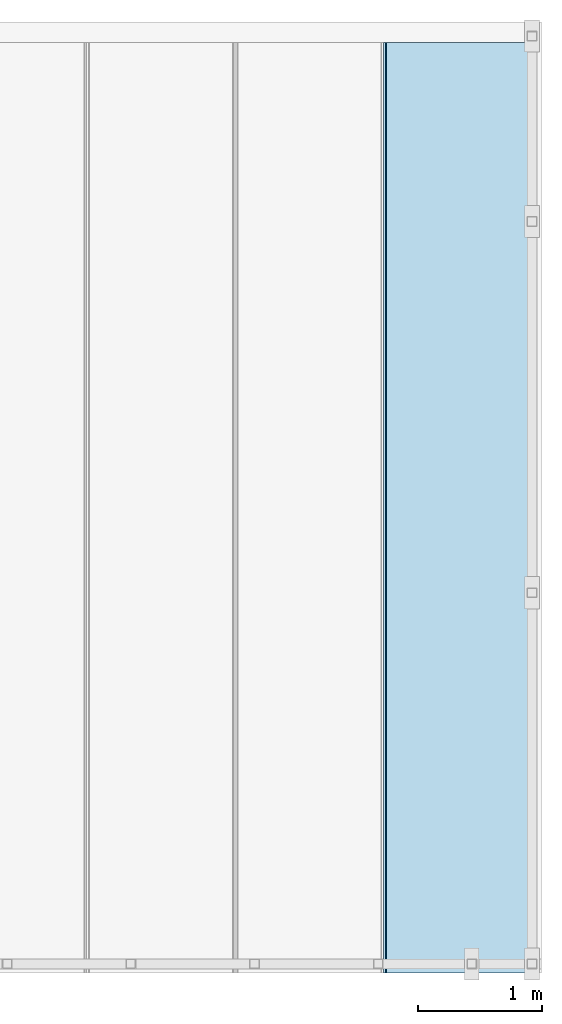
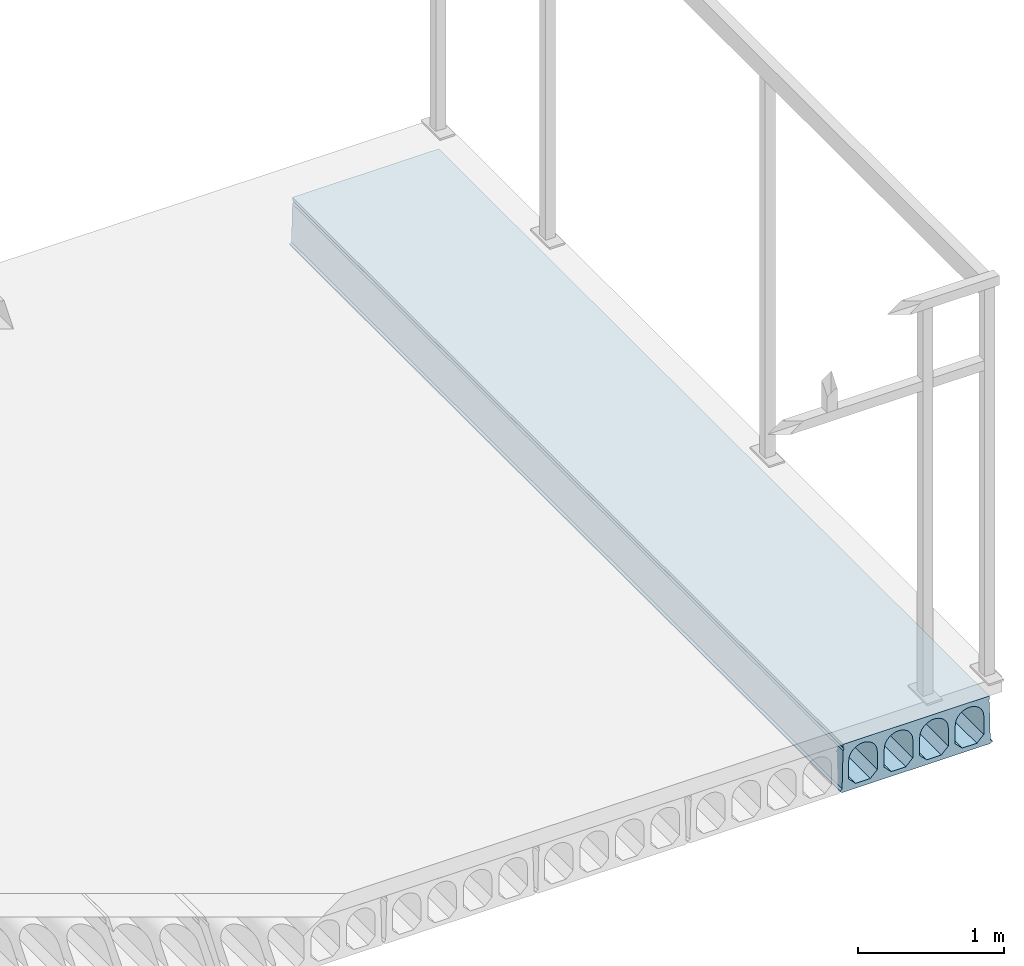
# One storey, part 20 of 20: 1 slab.
"""IFC2X3 building model written with IfcOpenShell, lengths in millimetres."""

import ifcopenshell
import ifcopenshell.guid

model = None  # the IFC model being written
_history = None  # IfcOwnerHistory: only IFC2X3 demands one
_inside = {}  # id of a spatial element -> (the spatial element, [elements in it])
_under = {}  # id of a project, library or spatial element -> (it, [spatial elements below it])
_declared = {}  # id of a project -> (the project, [libraries it declares])
_typed = {}  # id of a type object -> (the type object, [elements of that type])
_made_of = {}  # id of a material, layer set ... -> (it, [elements and type objects made of it])


def new_model(schema):
    """Start an empty IFC model of exactly this schema.

    Asked for "IFC4X3", IfcOpenShell would pick the latest addendum, in which some entities
    have other attributes; the version numbers below select the first issue.
    IFC2X3 requires an IfcOwnerHistory on every rooted entity: one is made here for all.
    """
    global model, _history
    if schema == "IFC4X3":
        model = ifcopenshell.file(schema_version=(4, 3, 0, 0))
    else:
        model = ifcopenshell.file(schema=schema)
    _inside.clear()
    _under.clear()
    _declared.clear()
    _typed.clear()
    _made_of.clear()
    _history = None
    if model.schema == "IFC2X3":
        org = make("IfcOrganization", Name="unknown")
        user = make(
            "IfcPersonAndOrganization",
            ThePerson=make("IfcPerson", FamilyName="unknown"),
            TheOrganization=org,
        )
        app = make(
            "IfcApplication",
            ApplicationDeveloper=org,
            Version="unknown",
            ApplicationFullName="unknown",
            ApplicationIdentifier="unknown",
        )
        _history = make(
            "IfcOwnerHistory",
            OwningUser=user,
            OwningApplication=app,
            ChangeAction="ADDED",
            CreationDate=0,
        )
    return model


def make(cls, **values):
    """One entity of the class cls with the attributes given. An attribute that is None is left unset."""
    return model.create_entity(
        cls, **{name: value for name, value in values.items() if value is not None}
    )


def entity(cls, *values):
    """Any entity or typed value of the class cls, its attributes in the order of the schema. None: left unset."""
    e = model.create_entity(cls)
    for i, value in enumerate(values):
        if value is not None:
            e[i] = value
    return e


def rooted(cls, **values):
    """An entity with a GlobalId (a new one), such as an element, a storey or a relation."""
    return make(cls, GlobalId=ifcopenshell.guid.new(), OwnerHistory=_history, **values)


def si_unit(unit_type, name, prefix=None):
    """IfcSIUnit, for example si_unit("LENGTHUNIT", "METRE", prefix="MILLI")."""
    return make("IfcSIUnit", UnitType=unit_type, Prefix=prefix, Name=name)


def converted_unit(unit_type, name, factor, base, dimensions=None, offset=None):
    """IfcConversionBasedUnit, such as the inch: factor (a typed value) times the base unit."""
    return make(
        "IfcConversionBasedUnit"
        if offset is None
        else "IfcConversionBasedUnitWithOffset",
        ConversionOffset=offset,
        Dimensions=None
        if dimensions is None
        else entity("IfcDimensionalExponents", *dimensions),
        UnitType=unit_type,
        Name=name,
        ConversionFactor=make(
            "IfcMeasureWithUnit", ValueComponent=factor, UnitComponent=base
        ),
    )


def derived_unit(unit_type, elements):
    """IfcDerivedUnit: a product of units, each with its exponent."""
    return make(
        "IfcDerivedUnit",
        Elements=[
            make("IfcDerivedUnitElement", Unit=unit, Exponent=power)
            for unit, power in elements
        ],
        UnitType=unit_type,
    )


def assignment(units):
    """IfcUnitAssignment: the units of a project."""
    return None if units is None else make("IfcUnitAssignment", Units=units)


def point(xyz):
    """IfcCartesianPoint."""
    return None if xyz is None else make("IfcCartesianPoint", Coordinates=xyz)


def direction(xyz):
    """IfcDirection."""
    return None if xyz is None else make("IfcDirection", DirectionRatios=xyz)


def frame(location, z_axis=None, x_axis=None):
    """IfcAxis2Placement3D, a coordinate frame: its origin and axes. An axis left out is left unset."""
    return make(
        "IfcAxis2Placement3D",
        Location=point(location),
        Axis=direction(z_axis),
        RefDirection=direction(x_axis),
    )


def origin_with_axes():
    """The frame at (0, 0, 0) with the z axis (0, 0, 1) and the x axis (1, 0, 0) written out."""
    return frame((0.0, 0.0, 0.0), z_axis=(0.0, 0.0, 1.0), x_axis=(1.0, 0.0, 0.0))


def place(relative_to, where):
    """IfcLocalPlacement: puts the frame where relative to a parent placement (None: the world)."""
    return make(
        "IfcLocalPlacement", PlacementRelTo=relative_to, RelativePlacement=where
    )


def context(
    kind, dimensions, precision=None, world=None, true_north=None, identifier=None
):
    """IfcGeometricRepresentationContext, for example the 3D "Model" context."""
    return make(
        "IfcGeometricRepresentationContext",
        ContextIdentifier=identifier,
        ContextType=kind,
        CoordinateSpaceDimension=dimensions,
        Precision=precision,
        WorldCoordinateSystem=world,
        TrueNorth=true_north,
    )


def subcontext(parent, identifier, kind, view, scale=None):
    """IfcGeometricRepresentationSubContext, for example "Body" below "Model"."""
    return make(
        "IfcGeometricRepresentationSubContext",
        ContextIdentifier=identifier,
        ContextType=kind,
        ParentContext=parent,
        TargetScale=scale,
        TargetView=view,
    )


def project(units=None, contexts=None):
    """IfcProject with its units and contexts."""
    return rooted(
        "IfcProject",
        Name="project",
        RepresentationContexts=contexts,
        UnitsInContext=assignment(units),
    )


def spatial(cls, under=None, at=None, **own):
    """A site, building, storey or space (cls), placed at a placement, below another one or the project."""
    s = rooted(cls, ObjectPlacement=at, **own)
    if under is not None:
        _under.setdefault(under.id(), (under, []))[1].append(s)
    return s


def faces_of(points, faces, orient=None, outer=None):
    """IfcFace entities. A face is a list of loops; a loop is a list of indices into points, from 0.

    orient and outer hold one flag for each loop. By default every Orientation is true, the
    first loop of a face is its IfcFaceOuterBound and the others are IfcFaceBound.
    """
    made = []
    for i, loops in enumerate(faces):
        bounds = []
        for j, loop in enumerate(loops):
            is_outer = j == 0 if outer is None else outer[i][j]
            bounds.append(
                make(
                    "IfcFaceOuterBound" if is_outer else "IfcFaceBound",
                    Bound=make("IfcPolyLoop", Polygon=[points[k] for k in loop]),
                    Orientation=True if orient is None else orient[i][j],
                )
            )
        made.append(make("IfcFace", Bounds=bounds))
    return made


def faceted_brep(points, faces, orient=None, outer=None, voids=None):
    """IfcFacetedBrep: a solid bounded by flat faces; with voids (closed shells), ...WithVoids."""
    shared = [point(p) for p in points]
    hull = make("IfcClosedShell", CfsFaces=faces_of(shared, faces, orient, outer))
    if voids is None:
        return make("IfcFacetedBrep", Outer=hull)
    return make(
        "IfcFacetedBrepWithVoids",
        Outer=hull,
        Voids=[
            make(cls, CfsFaces=faces_of(shared, fs, o, b)) for cls, fs, o, b in voids
        ],
    )


def shape(context_of_items, identifier, shape_type, items):
    """IfcShapeRepresentation: the items that make up one representation, for example the "Body"."""
    return make(
        "IfcShapeRepresentation",
        ContextOfItems=context_of_items,
        RepresentationIdentifier=identifier,
        RepresentationType=shape_type,
        Items=items,
    )


def made_of(thing, what):
    """Note that an element or type object is made of a material, layer set ...; save() writes the relation."""
    if what is not None:
        _made_of.setdefault(what.id(), (what, []))[1].append(thing)
    return thing


def type_object(cls, material=None, **own):
    """A type object (cls), such as IfcWallType, which elements share."""
    return made_of(rooted(cls, **own), material)


def element(
    cls,
    number,
    at=None,
    inside=None,
    cuts=None,
    type_object=None,
    material=None,
    context=None,
    identifier="Body",
    shape_type=None,
    held_by="IfcProductDefinitionShape",
    body=None,
    shapes=None,
    **own,
):
    """One element of the class cls, such as IfcWall. Its Tag is "e" and its number.

    at: its placement. inside: the storey or other place that contains it. cuts: it is an
    opening in that element (IfcRelVoidsElement). A single representation is given by context,
    identifier, shape_type and body (its items); several are given by shapes. held_by: the class
    of the entity that holds the representations. save() writes the other relations.
    """
    e = rooted(cls, Tag="e%d" % number, ObjectPlacement=at, **own)
    if body is not None:
        shapes = [shape(context, identifier, shape_type, body)]
    if shapes is not None:
        e.Representation = make(held_by, Representations=shapes)
    if inside is not None:
        _inside.setdefault(inside.id(), (inside, []))[1].append(e)
    if cuts is not None:
        rooted(
            "IfcRelVoidsElement", RelatingBuildingElement=cuts, RelatedOpeningElement=e
        )
    if type_object is not None:
        _typed.setdefault(type_object.id(), (type_object, []))[1].append(e)
    return made_of(e, material)


def aggregate(whole, parts):
    """IfcRelAggregates: a whole, such as a stair, and the parts it consists of."""
    return rooted("IfcRelAggregates", RelatingObject=whole, RelatedObjects=parts)


def save(model, path):
    """Write the relations noted so far, then the file.

    IfcRelAggregates (storeys below a building ...), IfcRelContainedInSpatialStructure (elements
    in a storey), IfcRelDefinesByType, IfcRelAssociatesMaterial and IfcRelDeclares: one each for
    every whole, place, type object, material and project.
    """
    for whole, parts in _under.values():
        aggregate(whole, parts)
    for where, things in _inside.values():
        rooted(
            "IfcRelContainedInSpatialStructure",
            RelatedElements=things,
            RelatingStructure=where,
        )
    for kind, things in _typed.values():
        rooted("IfcRelDefinesByType", RelatedObjects=things, RelatingType=kind)
    for what, things in _made_of.values():
        rooted("IfcRelAssociatesMaterial", RelatedObjects=things, RelatingMaterial=what)
    for by, libraries in _declared.values():
        rooted("IfcRelDeclares", RelatingContext=by, RelatedDefinitions=libraries)
    model.write(path)


model = new_model("IFC2X3")

# Units and contexts
model_context = context("Model", 3, precision=0.01, world=frame((0.0, 4.29681676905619e-09, 0.0)), true_north=direction((4.01073788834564e-13, 1.0)))
plan_context = context("Plan", 3, precision=0.01, world=frame((0.0, 4.29681676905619e-09, 0.0)), true_north=direction((4.01073788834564e-13, 1.0)))
body_context = subcontext(model_context, "Body", "Model", "MODEL_VIEW")
ifc_project = project(units=[converted_unit("PLANEANGLEUNIT", "DEGREE", entity("IfcPositiveLengthMeasure", 0.0174532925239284), si_unit("PLANEANGLEUNIT", "RADIAN"), dimensions=[0, 0, 0, 0, 0, 0, 0]), si_unit("AREAUNIT", "SQUARE_METRE"), si_unit("LENGTHUNIT", "METRE", prefix="MILLI"), si_unit("MASSUNIT", "GRAM", prefix="KILO"), si_unit("POWERUNIT", "WATT"), si_unit("PRESSUREUNIT", "PASCAL", prefix="KILO"), si_unit("FORCEUNIT", "NEWTON", prefix="KILO"), si_unit("ELECTRICVOLTAGEUNIT", "VOLT"), si_unit("ELECTRICCURRENTUNIT", "AMPERE"), si_unit("THERMODYNAMICTEMPERATUREUNIT", "DEGREE_CELSIUS"), si_unit("TIMEUNIT", "SECOND"), si_unit("VOLUMEUNIT", "CUBIC_METRE"), derived_unit("LINEARVELOCITYUNIT", [(si_unit("LENGTHUNIT", "METRE"), 1), (si_unit("TIMEUNIT", "SECOND"), -1)]), derived_unit("VOLUMETRICFLOWRATEUNIT", [(si_unit("VOLUMEUNIT", "CUBIC_METRE"), 1), (si_unit("TIMEUNIT", "SECOND"), -1)]), derived_unit("THERMALTRANSMITTANCEUNIT", [(si_unit("POWERUNIT", "WATT"), 1), (si_unit("THERMODYNAMICTEMPERATUREUNIT", "KELVIN"), -1), (si_unit("AREAUNIT", "SQUARE_METRE"), -1)]), derived_unit("SOUNDPRESSUREUNIT", [(si_unit("PRESSUREUNIT", "PASCAL"), 1)])], contexts=[model_context, plan_context])

# Site, building, storey
site_placement = place(None, frame((0.0, -4.29681676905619e-09, 0.0), z_axis=(0.0, 0.0, 1.0), x_axis=(1.0, 0.0, 0.0)))
site = spatial("IfcSite", under=ifc_project, at=site_placement, Name="Gardermoen", CompositionType="ELEMENT")
building_placement = place(site_placement, frame((0.0, 4.29681676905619e-09, 0.0), z_axis=(0.0, 0.0, 1.0), x_axis=(1.0, 0.0, 0.0)))
building = spatial("IfcBuilding", under=site, at=building_placement, Name="TS", CompositionType="ELEMENT")
storey_placement = place(building_placement, origin_with_axes())
storey = spatial("IfcBuildingStorey", under=building, at=storey_placement, Name="D", CompositionType="ELEMENT", Elevation=0.0)

# Slab
slab_type = type_object("IfcSlabType", Name="HD400", PredefinedType="NOTDEFINED")
slab_placement = place(storey_placement, frame((612399.999766, 396739.995625, 203600.0), z_axis=(0.0, 0.0, 1.0), x_axis=(0.0, 1.0, 0.0)))
element("IfcSlab", 1, at=slab_placement, inside=storey, type_object=slab_type, Name="HULLDEKKE", ObjectType="HD400", PredefinedType="FLOOR", context=body_context, shape_type="Brep", body=[
    faceted_brep([(996.504375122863, 600.0, -180.0), (996.504375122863, 600.0, -190.0), (8520.0, 600.0, -190.0), (8520.0, 600.0, -180.0), (996.504375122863, 585.0, -170.0), (8520.0, 585.0, -170.0), (996.504375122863, 577.5, 145.0), (8520.0, 577.5, 145.0), (996.504375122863, 570.0, 160.0), (8520.0, 570.0, 160.0), (996.504375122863, 577.5, 175.0), (8520.0, 577.5, 175.0), (996.504375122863, 577.5, 200.0), (8520.0, 577.5, 200.0), (996.504375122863, -577.5, 200.0), (8520.0, -577.5, 200.0), (996.504375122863, -577.5, 175.0), (8520.0, -577.5, 175.0), (996.504375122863, -570.0, 160.0), (8520.0, -570.0, 160.0), (996.504375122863, -577.5, 145.0), (8520.0, -577.5, 145.0), (996.504375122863, -585.0, -170.0), (8520.0, -585.0, -170.0), (996.504375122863, -600.0, -180.0), (8520.0, -600.0, -180.0), (996.504375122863, -600.0, -190.0), (8520.0, -600.0, -190.0), (996.504375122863, -583.380004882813, -200.0), (8520.0, -583.380004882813, -200.0), (996.504375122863, 583.380004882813, -200.0), (8520.0, 583.380004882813, -200.0), (996.504375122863, -477.5, -160.0), (996.504375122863, -362.5, -160.0), (8520.0, -362.5, -160.0), (8520.0, -477.5, -160.0), (996.504375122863, -532.5, -105.0), (8520.0, -532.5, -105.0), (996.504375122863, -532.5, 47.5), (8520.0, -532.5, 47.5), (996.504375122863, -532.115755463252, 56.7901763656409), (8520.0, -532.115755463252, 56.7901763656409), (996.504375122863, -530.965646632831, 66.0168914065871), (8520.0, -530.965646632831, 66.0168914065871), (996.504375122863, -529.057529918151, 75.1171173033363), (8520.0, -529.057529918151, 75.1171173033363), (996.504375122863, -526.404439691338, 84.028690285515), (8520.0, -526.404439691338, 84.028690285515), (996.504375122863, -523.024499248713, 92.6907352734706), (8520.0, -523.024499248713, 92.6907352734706), (996.504375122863, -518.940797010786, 101.044081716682), (8520.0, -518.940797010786, 101.044081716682), (996.504375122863, -514.181228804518, 109.031667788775), (8520.0, -514.181228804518, 109.031667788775), (996.504375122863, -508.778307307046, 116.598930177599), (8520.0, -508.778307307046, 116.598930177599), (996.504375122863, -502.768939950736, 123.694176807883), (8520.0, -502.768939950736, 123.694176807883), (996.504375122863, -496.194176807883, 130.268939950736), (8520.0, -496.194176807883, 130.268939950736), (996.504375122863, -489.098930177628, 136.278307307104), (8520.0, -489.098930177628, 136.278307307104), (996.504375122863, -481.531667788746, 141.681228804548), (8520.0, -481.531667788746, 141.681228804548), (996.504375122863, -473.544081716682, 146.440797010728), (8520.0, -473.544081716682, 146.440797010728), (996.504375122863, -465.190735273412, 150.524499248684), (8520.0, -465.190735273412, 150.524499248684), (996.504375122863, -456.528690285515, 153.904439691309), (8520.0, -456.528690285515, 153.904439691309), (996.504375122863, -447.617117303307, 156.55752991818), (8520.0, -447.617117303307, 156.55752991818), (996.504375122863, -438.516891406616, 158.465646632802), (8520.0, -438.516891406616, 158.465646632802), (996.504375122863, -429.290176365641, 159.615755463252), (8520.0, -429.290176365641, 159.615755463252), (996.504375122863, -420.0, 160.0), (8520.0, -420.0, 160.0), (996.504375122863, -410.709823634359, 159.615755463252), (8520.0, -410.709823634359, 159.615755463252), (996.504375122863, -401.483108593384, 158.465646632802), (8520.0, -401.483108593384, 158.465646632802), (996.504375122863, -392.382882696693, 156.55752991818), (8520.0, -392.382882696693, 156.55752991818), (996.504375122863, -383.471309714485, 153.904439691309), (8520.0, -383.471309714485, 153.904439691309), (996.504375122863, -374.809264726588, 150.524499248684), (8520.0, -374.809264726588, 150.524499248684), (996.504375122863, -366.455918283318, 146.440797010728), (8520.0, -366.455918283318, 146.440797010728), (996.504375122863, -358.468332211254, 141.681228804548), (8520.0, -358.468332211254, 141.681228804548), (996.504375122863, -350.901069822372, 136.278307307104), (8520.0, -350.901069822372, 136.278307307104), (996.504375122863, -343.805823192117, 130.268939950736), (8520.0, -343.805823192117, 130.268939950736), (996.504375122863, -337.231060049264, 123.694176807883), (8520.0, -337.231060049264, 123.694176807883), (996.504375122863, -331.221692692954, 116.598930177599), (8520.0, -331.221692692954, 116.598930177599), (996.504375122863, -325.818771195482, 109.031667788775), (8520.0, -325.818771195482, 109.031667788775), (996.504375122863, -321.059202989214, 101.044081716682), (8520.0, -321.059202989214, 101.044081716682), (996.504375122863, -316.975500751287, 92.6907352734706), (8520.0, -316.975500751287, 92.6907352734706), (996.504375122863, -313.595560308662, 84.028690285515), (8520.0, -313.595560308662, 84.028690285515), (996.504375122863, -310.942470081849, 75.1171173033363), (8520.0, -310.942470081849, 75.1171173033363), (996.504375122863, -309.034353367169, 66.0168914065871), (8520.0, -309.034353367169, 66.0168914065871), (996.504375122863, -307.884244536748, 56.7901763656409), (8520.0, -307.884244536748, 56.7901763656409), (996.504375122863, -307.5, 47.5), (8520.0, -307.5, 47.5), (996.504375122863, -307.5, -105.0), (8520.0, -307.5, -105.0), (996.504375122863, -197.5, -160.0), (996.504375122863, -82.5, -160.0), (8520.0, -82.5, -160.0), (8520.0, -197.5, -160.0), (996.504375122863, -252.5, -105.0), (8520.0, -252.5, -105.0), (996.504375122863, -252.5, 47.5), (8520.0, -252.5, 47.5), (996.504375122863, -252.115755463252, 56.7901763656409), (8520.0, -252.115755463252, 56.7901763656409), (996.504375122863, -250.965646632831, 66.0168914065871), (8520.0, -250.965646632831, 66.0168914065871), (996.504375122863, -249.057529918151, 75.1171173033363), (8520.0, -249.057529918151, 75.1171173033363), (996.504375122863, -246.404439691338, 84.028690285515), (8520.0, -246.404439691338, 84.028690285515), (996.504375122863, -243.024499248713, 92.6907352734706), (8520.0, -243.024499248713, 92.6907352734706), (996.504375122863, -238.940797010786, 101.044081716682), (8520.0, -238.940797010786, 101.044081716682), (996.504375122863, -234.181228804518, 109.031667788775), (8520.0, -234.181228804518, 109.031667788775), (996.504375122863, -228.778307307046, 116.598930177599), (8520.0, -228.778307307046, 116.598930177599), (996.504375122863, -222.768939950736, 123.694176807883), (8520.0, -222.768939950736, 123.694176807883), (996.504375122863, -216.194176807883, 130.268939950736), (8520.0, -216.194176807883, 130.268939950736), (996.504375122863, -209.098930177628, 136.278307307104), (8520.0, -209.098930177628, 136.278307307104), (996.504375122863, -201.531667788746, 141.681228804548), (8520.0, -201.531667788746, 141.681228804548), (996.504375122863, -193.544081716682, 146.440797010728), (8520.0, -193.544081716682, 146.440797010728), (996.504375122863, -185.190735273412, 150.524499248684), (8520.0, -185.190735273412, 150.524499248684), (996.504375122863, -176.528690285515, 153.904439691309), (8520.0, -176.528690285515, 153.904439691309), (996.504375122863, -167.617117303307, 156.55752991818), (8520.0, -167.617117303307, 156.55752991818), (996.504375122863, -158.516891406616, 158.465646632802), (8520.0, -158.516891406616, 158.465646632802), (996.504375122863, -149.290176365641, 159.615755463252), (8520.0, -149.290176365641, 159.615755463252), (996.504375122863, -140.0, 160.0), (8520.0, -140.0, 160.0), (996.504375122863, -130.709823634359, 159.615755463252), (8520.0, -130.709823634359, 159.615755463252), (996.504375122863, -121.483108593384, 158.465646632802), (8520.0, -121.483108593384, 158.465646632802), (996.504375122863, -112.382882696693, 156.55752991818), (8520.0, -112.382882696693, 156.55752991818), (996.504375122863, -103.471309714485, 153.904439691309), (8520.0, -103.471309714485, 153.904439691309), (996.504375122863, -94.8092647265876, 150.524499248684), (8520.0, -94.8092647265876, 150.524499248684), (996.504375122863, -86.4559182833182, 146.440797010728), (8520.0, -86.4559182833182, 146.440797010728), (996.504375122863, -78.4683322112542, 141.681228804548), (8520.0, -78.4683322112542, 141.681228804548), (996.504375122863, -70.9010698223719, 136.278307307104), (8520.0, -70.9010698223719, 136.278307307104), (996.504375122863, -63.8058231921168, 130.268939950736), (8520.0, -63.8058231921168, 130.268939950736), (996.504375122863, -57.2310600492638, 123.694176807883), (8520.0, -57.2310600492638, 123.694176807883), (996.504375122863, -51.2216926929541, 116.598930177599), (8520.0, -51.2216926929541, 116.598930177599), (996.504375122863, -45.8187711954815, 109.031667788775), (8520.0, -45.8187711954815, 109.031667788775), (996.504375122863, -41.0592029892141, 101.044081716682), (8520.0, -41.0592029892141, 101.044081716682), (996.504375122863, -36.9755007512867, 92.6907352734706), (8520.0, -36.9755007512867, 92.6907352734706), (996.504375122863, -33.5955603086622, 84.028690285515), (8520.0, -33.5955603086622, 84.028690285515), (996.504375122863, -30.942470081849, 75.1171173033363), (8520.0, -30.942470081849, 75.1171173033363), (996.504375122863, -29.0343533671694, 66.0168914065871), (8520.0, -29.0343533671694, 66.0168914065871), (996.504375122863, -27.8842445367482, 56.7901763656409), (8520.0, -27.8842445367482, 56.7901763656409), (996.504375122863, -27.5, 47.5), (8520.0, -27.5, 47.5), (996.504375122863, -27.5, -105.0), (8520.0, -27.5, -105.0), (996.504375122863, 82.5, -160.0), (996.504375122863, 197.5, -160.0), (8520.0, 197.5, -160.0), (8520.0, 82.5, -160.0), (996.504375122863, 27.5, -105.0), (8520.0, 27.5, -105.0), (996.504375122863, 27.5, 47.5), (8520.0, 27.5, 47.5), (996.504375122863, 27.8842445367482, 56.7901763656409), (8520.0, 27.8842445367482, 56.7901763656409), (996.504375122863, 29.0343533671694, 66.0168914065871), (8520.0, 29.0343533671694, 66.0168914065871), (996.504375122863, 30.942470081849, 75.1171173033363), (8520.0, 30.942470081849, 75.1171173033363), (996.504375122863, 33.5955603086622, 84.028690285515), (8520.0, 33.5955603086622, 84.028690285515), (996.504375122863, 36.9755007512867, 92.6907352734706), (8520.0, 36.9755007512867, 92.6907352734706), (996.504375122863, 41.0592029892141, 101.044081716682), (8520.0, 41.0592029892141, 101.044081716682), (996.504375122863, 45.8187711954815, 109.031667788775), (8520.0, 45.8187711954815, 109.031667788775), (996.504375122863, 51.2216926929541, 116.598930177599), (8520.0, 51.2216926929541, 116.598930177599), (996.504375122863, 57.2310600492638, 123.694176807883), (8520.0, 57.2310600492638, 123.694176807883), (996.504375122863, 63.8058231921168, 130.268939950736), (8520.0, 63.8058231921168, 130.268939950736), (996.504375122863, 70.9010698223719, 136.278307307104), (8520.0, 70.9010698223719, 136.278307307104), (996.504375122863, 78.4683322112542, 141.681228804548), (8520.0, 78.4683322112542, 141.681228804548), (996.504375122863, 86.4559182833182, 146.440797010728), (8520.0, 86.4559182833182, 146.440797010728), (996.504375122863, 94.8092647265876, 150.524499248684), (8520.0, 94.8092647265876, 150.524499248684), (996.504375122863, 103.471309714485, 153.904439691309), (8520.0, 103.471309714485, 153.904439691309), (996.504375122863, 112.382882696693, 156.55752991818), (8520.0, 112.382882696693, 156.55752991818), (996.504375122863, 121.483108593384, 158.465646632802), (8520.0, 121.483108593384, 158.465646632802), (996.504375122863, 130.709823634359, 159.615755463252), (8520.0, 130.709823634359, 159.615755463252), (996.504375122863, 140.0, 160.0), (8520.0, 140.0, 160.0), (996.504375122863, 149.290176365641, 159.615755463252), (8520.0, 149.290176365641, 159.615755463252), (996.504375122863, 158.516891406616, 158.465646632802), (8520.0, 158.516891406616, 158.465646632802), (996.504375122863, 167.617117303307, 156.55752991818), (8520.0, 167.617117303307, 156.55752991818), (996.504375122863, 176.528690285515, 153.904439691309), (8520.0, 176.528690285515, 153.904439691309), (996.504375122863, 185.190735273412, 150.524499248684), (8520.0, 185.190735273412, 150.524499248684), (996.504375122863, 193.544081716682, 146.440797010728), (8520.0, 193.544081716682, 146.440797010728), (996.504375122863, 201.531667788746, 141.681228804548), (8520.0, 201.531667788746, 141.681228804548), (996.504375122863, 209.098930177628, 136.278307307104), (8520.0, 209.098930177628, 136.278307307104), (996.504375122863, 216.194176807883, 130.268939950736), (8520.0, 216.194176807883, 130.268939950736), (996.504375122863, 222.768939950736, 123.694176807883), (8520.0, 222.768939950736, 123.694176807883), (996.504375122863, 228.778307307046, 116.598930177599), (8520.0, 228.778307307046, 116.598930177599), (996.504375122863, 234.181228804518, 109.031667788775), (8520.0, 234.181228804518, 109.031667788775), (996.504375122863, 238.940797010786, 101.044081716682), (8520.0, 238.940797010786, 101.044081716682), (996.504375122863, 243.024499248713, 92.6907352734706), (8520.0, 243.024499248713, 92.6907352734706), (996.504375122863, 246.404439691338, 84.028690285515), (8520.0, 246.404439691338, 84.028690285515), (996.504375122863, 249.057529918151, 75.1171173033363), (8520.0, 249.057529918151, 75.1171173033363), (996.504375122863, 250.965646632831, 66.0168914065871), (8520.0, 250.965646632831, 66.0168914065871), (996.504375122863, 252.115755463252, 56.7901763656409), (8520.0, 252.115755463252, 56.7901763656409), (996.504375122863, 252.5, 47.5), (8520.0, 252.5, 47.5), (996.504375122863, 252.5, -105.0), (8520.0, 252.5, -105.0), (996.504375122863, 362.5, -160.0), (996.504375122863, 477.5, -160.0), (8520.0, 477.5, -160.0), (8520.0, 362.5, -160.0), (996.504375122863, 307.5, -105.0), (8520.0, 307.5, -105.0), (996.504375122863, 307.5, 47.5), (8520.0, 307.5, 47.5), (996.504375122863, 307.884244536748, 56.7901763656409), (8520.0, 307.884244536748, 56.7901763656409), (996.504375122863, 309.034353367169, 66.0168914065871), (8520.0, 309.034353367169, 66.0168914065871), (996.504375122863, 310.942470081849, 75.1171173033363), (8520.0, 310.942470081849, 75.1171173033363), (996.504375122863, 313.595560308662, 84.028690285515), (8520.0, 313.595560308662, 84.028690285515), (996.504375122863, 316.975500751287, 92.6907352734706), (8520.0, 316.975500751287, 92.6907352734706), (996.504375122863, 321.059202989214, 101.044081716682), (8520.0, 321.059202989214, 101.044081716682), (996.504375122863, 325.818771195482, 109.031667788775), (8520.0, 325.818771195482, 109.031667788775), (996.504375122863, 331.221692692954, 116.598930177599), (8520.0, 331.221692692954, 116.598930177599), (996.504375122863, 337.231060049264, 123.694176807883), (8520.0, 337.231060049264, 123.694176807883), (996.504375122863, 343.805823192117, 130.268939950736), (8520.0, 343.805823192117, 130.268939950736), (996.504375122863, 350.901069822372, 136.278307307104), (8520.0, 350.901069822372, 136.278307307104), (996.504375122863, 358.468332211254, 141.681228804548), (8520.0, 358.468332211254, 141.681228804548), (996.504375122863, 366.455918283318, 146.440797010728), (8520.0, 366.455918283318, 146.440797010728), (996.504375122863, 374.809264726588, 150.524499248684), (8520.0, 374.809264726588, 150.524499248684), (996.504375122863, 383.471309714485, 153.904439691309), (8520.0, 383.471309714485, 153.904439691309), (996.504375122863, 392.382882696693, 156.55752991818), (8520.0, 392.382882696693, 156.55752991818), (996.504375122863, 401.483108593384, 158.465646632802), (8520.0, 401.483108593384, 158.465646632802), (996.504375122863, 410.709823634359, 159.615755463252), (8520.0, 410.709823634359, 159.615755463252), (996.504375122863, 420.0, 160.0), (8520.0, 420.0, 160.0), (996.504375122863, 429.290176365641, 159.615755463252), (8520.0, 429.290176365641, 159.615755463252), (996.504375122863, 438.516891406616, 158.465646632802), (8520.0, 438.516891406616, 158.465646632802), (996.504375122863, 447.617117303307, 156.55752991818), (8520.0, 447.617117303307, 156.55752991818), (996.504375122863, 456.528690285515, 153.904439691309), (8520.0, 456.528690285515, 153.904439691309), (996.504375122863, 465.190735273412, 150.524499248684), (8520.0, 465.190735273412, 150.524499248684), (996.504375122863, 473.544081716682, 146.440797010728), (8520.0, 473.544081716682, 146.440797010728), (996.504375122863, 481.531667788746, 141.681228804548), (8520.0, 481.531667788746, 141.681228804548), (996.504375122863, 489.098930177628, 136.278307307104), (8520.0, 489.098930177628, 136.278307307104), (996.504375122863, 496.194176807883, 130.268939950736), (8520.0, 496.194176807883, 130.268939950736), (996.504375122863, 502.768939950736, 123.694176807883), (8520.0, 502.768939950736, 123.694176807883), (996.504375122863, 508.778307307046, 116.598930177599), (8520.0, 508.778307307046, 116.598930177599), (996.504375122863, 514.181228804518, 109.031667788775), (8520.0, 514.181228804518, 109.031667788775), (996.504375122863, 518.940797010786, 101.044081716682), (8520.0, 518.940797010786, 101.044081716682), (996.504375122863, 523.024499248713, 92.6907352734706), (8520.0, 523.024499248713, 92.6907352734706), (996.504375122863, 526.404439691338, 84.028690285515), (8520.0, 526.404439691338, 84.028690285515), (996.504375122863, 529.057529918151, 75.1171173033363), (8520.0, 529.057529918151, 75.1171173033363), (996.504375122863, 530.965646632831, 66.0168914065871), (8520.0, 530.965646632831, 66.0168914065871), (996.504375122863, 532.115755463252, 56.7901763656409), (8520.0, 532.115755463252, 56.7901763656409), (996.504375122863, 532.5, 47.5), (8520.0, 532.5, 47.5), (996.504375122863, 532.5, -105.0), (8520.0, 532.5, -105.0)], [[[0, 1, 2, 3]], [[4, 0, 3, 5]], [[6, 4, 5, 7]], [[8, 6, 7, 9]], [[10, 8, 9, 11]], [[12, 10, 11, 13]], [[14, 12, 13, 15]], [[16, 14, 15, 17]], [[18, 16, 17, 19]], [[20, 18, 19, 21]], [[22, 20, 21, 23]], [[24, 22, 23, 25]], [[26, 24, 25, 27]], [[28, 26, 27, 29]], [[30, 28, 29, 31]], [[1, 30, 31, 2]], [[32, 33, 34, 35]], [[36, 32, 35, 37]], [[38, 36, 37, 39]], [[40, 38, 39, 41]], [[42, 40, 41, 43]], [[44, 42, 43, 45]], [[46, 44, 45, 47]], [[48, 46, 47, 49]], [[50, 48, 49, 51]], [[52, 50, 51, 53]], [[54, 52, 53, 55]], [[56, 54, 55, 57]], [[58, 56, 57, 59]], [[60, 58, 59, 61]], [[62, 60, 61, 63]], [[64, 62, 63, 65]], [[66, 64, 65, 67]], [[68, 66, 67, 69]], [[70, 68, 69, 71]], [[72, 70, 71, 73]], [[74, 72, 73, 75]], [[76, 74, 75, 77]], [[78, 76, 77, 79]], [[80, 78, 79, 81]], [[82, 80, 81, 83]], [[84, 82, 83, 85]], [[86, 84, 85, 87]], [[88, 86, 87, 89]], [[90, 88, 89, 91]], [[92, 90, 91, 93]], [[94, 92, 93, 95]], [[96, 94, 95, 97]], [[98, 96, 97, 99]], [[100, 98, 99, 101]], [[102, 100, 101, 103]], [[104, 102, 103, 105]], [[106, 104, 105, 107]], [[108, 106, 107, 109]], [[110, 108, 109, 111]], [[112, 110, 111, 113]], [[114, 112, 113, 115]], [[116, 114, 115, 117]], [[33, 116, 117, 34]], [[118, 119, 120, 121]], [[122, 118, 121, 123]], [[124, 122, 123, 125]], [[126, 124, 125, 127]], [[128, 126, 127, 129]], [[130, 128, 129, 131]], [[132, 130, 131, 133]], [[134, 132, 133, 135]], [[136, 134, 135, 137]], [[138, 136, 137, 139]], [[140, 138, 139, 141]], [[142, 140, 141, 143]], [[144, 142, 143, 145]], [[146, 144, 145, 147]], [[148, 146, 147, 149]], [[150, 148, 149, 151]], [[152, 150, 151, 153]], [[154, 152, 153, 155]], [[156, 154, 155, 157]], [[158, 156, 157, 159]], [[160, 158, 159, 161]], [[162, 160, 161, 163]], [[164, 162, 163, 165]], [[166, 164, 165, 167]], [[168, 166, 167, 169]], [[170, 168, 169, 171]], [[172, 170, 171, 173]], [[174, 172, 173, 175]], [[176, 174, 175, 177]], [[178, 176, 177, 179]], [[180, 178, 179, 181]], [[182, 180, 181, 183]], [[184, 182, 183, 185]], [[186, 184, 185, 187]], [[188, 186, 187, 189]], [[190, 188, 189, 191]], [[192, 190, 191, 193]], [[194, 192, 193, 195]], [[196, 194, 195, 197]], [[198, 196, 197, 199]], [[200, 198, 199, 201]], [[202, 200, 201, 203]], [[119, 202, 203, 120]], [[204, 205, 206, 207]], [[208, 204, 207, 209]], [[210, 208, 209, 211]], [[212, 210, 211, 213]], [[214, 212, 213, 215]], [[216, 214, 215, 217]], [[218, 216, 217, 219]], [[220, 218, 219, 221]], [[222, 220, 221, 223]], [[224, 222, 223, 225]], [[226, 224, 225, 227]], [[228, 226, 227, 229]], [[230, 228, 229, 231]], [[232, 230, 231, 233]], [[234, 232, 233, 235]], [[236, 234, 235, 237]], [[238, 236, 237, 239]], [[240, 238, 239, 241]], [[242, 240, 241, 243]], [[244, 242, 243, 245]], [[246, 244, 245, 247]], [[248, 246, 247, 249]], [[250, 248, 249, 251]], [[252, 250, 251, 253]], [[254, 252, 253, 255]], [[256, 254, 255, 257]], [[258, 256, 257, 259]], [[260, 258, 259, 261]], [[262, 260, 261, 263]], [[264, 262, 263, 265]], [[266, 264, 265, 267]], [[268, 266, 267, 269]], [[270, 268, 269, 271]], [[272, 270, 271, 273]], [[274, 272, 273, 275]], [[276, 274, 275, 277]], [[278, 276, 277, 279]], [[280, 278, 279, 281]], [[282, 280, 281, 283]], [[284, 282, 283, 285]], [[286, 284, 285, 287]], [[288, 286, 287, 289]], [[205, 288, 289, 206]], [[290, 291, 292, 293]], [[294, 290, 293, 295]], [[296, 294, 295, 297]], [[298, 296, 297, 299]], [[300, 298, 299, 301]], [[302, 300, 301, 303]], [[304, 302, 303, 305]], [[306, 304, 305, 307]], [[308, 306, 307, 309]], [[310, 308, 309, 311]], [[312, 310, 311, 313]], [[314, 312, 313, 315]], [[316, 314, 315, 317]], [[318, 316, 317, 319]], [[320, 318, 319, 321]], [[322, 320, 321, 323]], [[324, 322, 323, 325]], [[326, 324, 325, 327]], [[328, 326, 327, 329]], [[330, 328, 329, 331]], [[332, 330, 331, 333]], [[334, 332, 333, 335]], [[336, 334, 335, 337]], [[338, 336, 337, 339]], [[340, 338, 339, 341]], [[342, 340, 341, 343]], [[344, 342, 343, 345]], [[346, 344, 345, 347]], [[348, 346, 347, 349]], [[350, 348, 349, 351]], [[352, 350, 351, 353]], [[354, 352, 353, 355]], [[356, 354, 355, 357]], [[358, 356, 357, 359]], [[360, 358, 359, 361]], [[362, 360, 361, 363]], [[364, 362, 363, 365]], [[366, 364, 365, 367]], [[368, 366, 367, 369]], [[370, 368, 369, 371]], [[372, 370, 371, 373]], [[374, 372, 373, 375]], [[291, 374, 375, 292]], [[3, 2, 31, 29, 27, 25, 23, 21, 19, 17, 15, 13, 11, 9, 7, 5], [293, 292, 375, 373, 371, 369, 367, 365, 363, 361, 359, 357, 355, 353, 351, 349, 347, 345, 343, 341, 339, 337, 335, 333, 331, 329, 327, 325, 323, 321, 319, 317, 315, 313, 311, 309, 307, 305, 303, 301, 299, 297, 295], [207, 206, 289, 287, 285, 283, 281, 279, 277, 275, 273, 271, 269, 267, 265, 263, 261, 259, 257, 255, 253, 251, 249, 247, 245, 243, 241, 239, 237, 235, 233, 231, 229, 227, 225, 223, 221, 219, 217, 215, 213, 211, 209], [121, 120, 203, 201, 199, 197, 195, 193, 191, 189, 187, 185, 183, 181, 179, 177, 175, 173, 171, 169, 167, 165, 163, 161, 159, 157, 155, 153, 151, 149, 147, 145, 143, 141, 139, 137, 135, 133, 131, 129, 127, 125, 123], [35, 34, 117, 115, 113, 111, 109, 107, 105, 103, 101, 99, 97, 95, 93, 91, 89, 87, 85, 83, 81, 79, 77, 75, 73, 71, 69, 67, 65, 63, 61, 59, 57, 55, 53, 51, 49, 47, 45, 43, 41, 39, 37]], [[4, 6, 8, 10, 12, 14, 16, 18, 20, 22, 24, 26, 28, 30, 1, 0], [36, 38, 40, 42, 44, 46, 48, 50, 52, 54, 56, 58, 60, 62, 64, 66, 68, 70, 72, 74, 76, 78, 80, 82, 84, 86, 88, 90, 92, 94, 96, 98, 100, 102, 104, 106, 108, 110, 112, 114, 116, 33, 32], [122, 124, 126, 128, 130, 132, 134, 136, 138, 140, 142, 144, 146, 148, 150, 152, 154, 156, 158, 160, 162, 164, 166, 168, 170, 172, 174, 176, 178, 180, 182, 184, 186, 188, 190, 192, 194, 196, 198, 200, 202, 119, 118], [208, 210, 212, 214, 216, 218, 220, 222, 224, 226, 228, 230, 232, 234, 236, 238, 240, 242, 244, 246, 248, 250, 252, 254, 256, 258, 260, 262, 264, 266, 268, 270, 272, 274, 276, 278, 280, 282, 284, 286, 288, 205, 204], [294, 296, 298, 300, 302, 304, 306, 308, 310, 312, 314, 316, 318, 320, 322, 324, 326, 328, 330, 332, 334, 336, 338, 340, 342, 344, 346, 348, 350, 352, 354, 356, 358, 360, 362, 364, 366, 368, 370, 372, 374, 291, 290]]], orient=[[False], [False], [False], [False], [False], [False], [False], [False], [False], [False], [False], [False], [False], [False], [False], [False], [False], [False], [False], [False], [False], [False], [False], [False], [False], [False], [False], [False], [False], [False], [False], [False], [False], [False], [False], [False], [False], [False], [False], [False], [False], [False], [False], [False], [False], [False], [False], [False], [False], [False], [False], [False], [False], [False], [False], [False], [False], [False], [False], [False], [False], [False], [False], [False], [False], [False], [False], [False], [False], [False], [False], [False], [False], [False], [False], [False], [False], [False], [False], [False], [False], [False], [False], [False], [False], [False], [False], [False], [False], [False], [False], [False], [False], [False], [False], [False], [False], [False], [False], [False], [False], [False], [False], [False], [False], [False], [False], [False], [False], [False], [False], [False], [False], [False], [False], [False], [False], [False], [False], [False], [False], [False], [False], [False], [False], [False], [False], [False], [False], [False], [False], [False], [False], [False], [False], [False], [False], [False], [False], [False], [False], [False], [False], [False], [False], [False], [False], [False], [False], [False], [False], [False], [False], [False], [False], [False], [False], [False], [False], [False], [False], [False], [False], [False], [False], [False], [False], [False], [False], [False], [False], [False], [False], [False], [False], [False], [False], [False], [False], [False], [False], [False], [False], [False], [False], [False], [False], [False], [False, False, False, False, False], [False, False, False, False, False]]),
])

save(model, "model.ifc")
